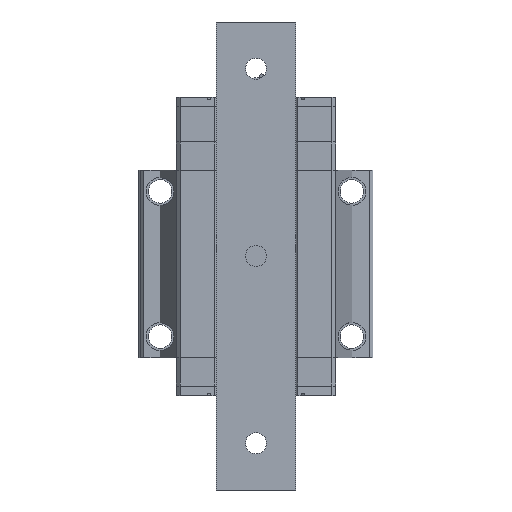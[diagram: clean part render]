
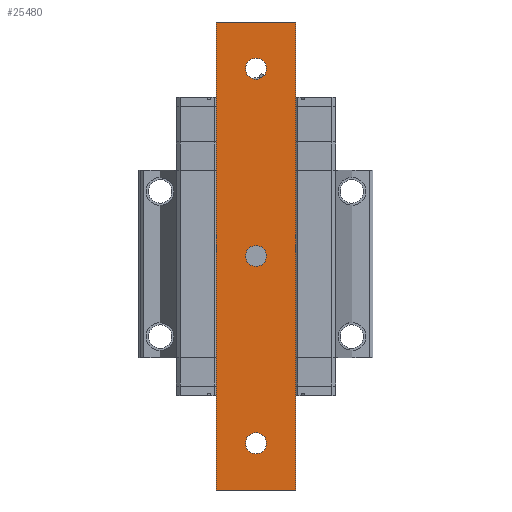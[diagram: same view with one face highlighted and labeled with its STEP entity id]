
A CAD part, front view. The second image highlights one B-rep face of the part: STEP entity #25480.
In plain terms, the highlighted planar face has unit normal (0, -1, 0).
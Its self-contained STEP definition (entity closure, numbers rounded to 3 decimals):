
#26 = VERTEX_POINT ( 'NONE', #2319 ) ;
#147 = DIRECTION ( 'NONE',  ( 0., 1., 0. ) ) ;
#363 = EDGE_LOOP ( 'NONE', ( #12113, #31694, #9282, #29969 ) ) ;
#595 = ORIENTED_EDGE ( 'NONE', *, *, #3492, .T. ) ;
#706 = EDGE_LOOP ( 'NONE', ( #595, #848 ) ) ;
#720 = EDGE_CURVE ( 'NONE', #25759, #10280, #30648, .T. ) ;
#848 = ORIENTED_EDGE ( 'NONE', *, *, #11807, .T. ) ;
#1095 = DIRECTION ( 'NONE',  ( 0., 0., 1. ) ) ;
#1551 = CARTESIAN_POINT ( 'NONE',  ( 0., -7.4, 80. ) ) ;
#1775 = DIRECTION ( 'NONE',  ( 0., 1., 0. ) ) ;
#2319 = CARTESIAN_POINT ( 'NONE',  ( 0., -7.4, 4.5 ) ) ;
#2815 = EDGE_CURVE ( 'NONE', #11930, #17918, #9507, .T. ) ;
#3130 = CARTESIAN_POINT ( 'NONE',  ( -17., -7.4, -100. ) ) ;
#3492 = EDGE_CURVE ( 'NONE', #25474, #14408, #18432, .T. ) ;
#3526 = CIRCLE ( 'NONE', #27011, 4.5 ) ;
#3545 = FACE_BOUND ( 'NONE', #706, .T. ) ;
#4035 = DIRECTION ( 'NONE',  ( 0., 0., 1. ) ) ;
#4064 = VECTOR ( 'NONE', #10052, 1000. ) ;
#4142 = DIRECTION ( 'NONE',  ( 0., 1., 0. ) ) ;
#4246 = CARTESIAN_POINT ( 'NONE',  ( -17., -7.4, -100. ) ) ;
#4560 = LINE ( 'NONE', #28664, #9899 ) ;
#4731 = FACE_BOUND ( 'NONE', #29448, .T. ) ;
#5036 = EDGE_CURVE ( 'NONE', #10280, #25759, #23872, .T. ) ;
#5421 = VERTEX_POINT ( 'NONE', #18916 ) ;
#5447 = ORIENTED_EDGE ( 'NONE', *, *, #21175, .T. ) ;
#6144 = CARTESIAN_POINT ( 'NONE',  ( 0., -7.4, -75.5 ) ) ;
#7030 = AXIS2_PLACEMENT_3D ( 'NONE', #23486, #20699, #1095 ) ;
#7844 = DIRECTION ( 'NONE',  ( 0., 0., 1. ) ) ;
#7974 = DIRECTION ( 'NONE',  ( 0., 1., 0. ) ) ;
#8272 = ORIENTED_EDGE ( 'NONE', *, *, #5036, .T. ) ;
#8799 = PLANE ( 'NONE',  #17621 ) ;
#9282 = ORIENTED_EDGE ( 'NONE', *, *, #2815, .F. ) ;
#9344 = EDGE_CURVE ( 'NONE', #11930, #5421, #28552, .T. ) ;
#9507 = LINE ( 'NONE', #4246, #21891 ) ;
#9899 = VECTOR ( 'NONE', #28999, 1000. ) ;
#10052 = DIRECTION ( 'NONE',  ( 1., 0., 0. ) ) ;
#10280 = VERTEX_POINT ( 'NONE', #6144 ) ;
#10423 = VERTEX_POINT ( 'NONE', #25198 ) ;
#10466 = DIRECTION ( 'NONE',  ( 0., 0., 1. ) ) ;
#11358 = LINE ( 'NONE', #25108, #4064 ) ;
#11692 = DIRECTION ( 'NONE',  ( 0., -1., 0. ) ) ;
#11807 = EDGE_CURVE ( 'NONE', #14408, #25474, #28159, .T. ) ;
#11930 = VERTEX_POINT ( 'NONE', #3130 ) ;
#12113 = ORIENTED_EDGE ( 'NONE', *, *, #28545, .T. ) ;
#13814 = CARTESIAN_POINT ( 'NONE',  ( 0., -7.4, -80. ) ) ;
#13899 = CARTESIAN_POINT ( 'NONE',  ( -17., -7.4, 100. ) ) ;
#14408 = VERTEX_POINT ( 'NONE', #21202 ) ;
#15797 = AXIS2_PLACEMENT_3D ( 'NONE', #1551, #4142, #4035 ) ;
#16145 = VECTOR ( 'NONE', #18317, 1000. ) ;
#16209 = DIRECTION ( 'NONE',  ( 0., 0., 1. ) ) ;
#16260 = CARTESIAN_POINT ( 'NONE',  ( 0., -7.4, 80. ) ) ;
#17621 = AXIS2_PLACEMENT_3D ( 'NONE', #29114, #11692, #31502 ) ;
#17918 = VERTEX_POINT ( 'NONE', #13899 ) ;
#18213 = CARTESIAN_POINT ( 'NONE',  ( 0., -7.4, -84.5 ) ) ;
#18317 = DIRECTION ( 'NONE',  ( 1., 0., 0. ) ) ;
#18432 = CIRCLE ( 'NONE', #18859, 4.5 ) ;
#18859 = AXIS2_PLACEMENT_3D ( 'NONE', #16260, #147, #7844 ) ;
#18916 = CARTESIAN_POINT ( 'NONE',  ( 17., -7.4, -100. ) ) ;
#20699 = DIRECTION ( 'NONE',  ( 0., 1., 0. ) ) ;
#20781 = EDGE_LOOP ( 'NONE', ( #5447, #24775 ) ) ;
#21175 = EDGE_CURVE ( 'NONE', #26, #26426, #3526, .T. ) ;
#21202 = CARTESIAN_POINT ( 'NONE',  ( 0., -7.4, 75.5 ) ) ;
#21873 = CARTESIAN_POINT ( 'NONE',  ( 0., -7.4, -4.5 ) ) ;
#21891 = VECTOR ( 'NONE', #24859, 1000. ) ;
#22413 = FACE_OUTER_BOUND ( 'NONE', #363, .T. ) ;
#22759 = CARTESIAN_POINT ( 'NONE',  ( 0., -7.4, -80. ) ) ;
#22959 = AXIS2_PLACEMENT_3D ( 'NONE', #13814, #31185, #16209 ) ;
#23486 = CARTESIAN_POINT ( 'NONE',  ( 0., -7.4, 0. ) ) ;
#23489 = CARTESIAN_POINT ( 'NONE',  ( 0., -7.4, 84.5 ) ) ;
#23872 = CIRCLE ( 'NONE', #29131, 4.5 ) ;
#24775 = ORIENTED_EDGE ( 'NONE', *, *, #25741, .T. ) ;
#24804 = FACE_BOUND ( 'NONE', #20781, .T. ) ;
#24859 = DIRECTION ( 'NONE',  ( 0., 0., 1. ) ) ;
#25108 = CARTESIAN_POINT ( 'NONE',  ( -17., -7.4, 100. ) ) ;
#25198 = CARTESIAN_POINT ( 'NONE',  ( 17., -7.4, 100. ) ) ;
#25209 = CIRCLE ( 'NONE', #7030, 4.5 ) ;
#25474 = VERTEX_POINT ( 'NONE', #23489 ) ;
#25480 = ADVANCED_FACE ( 'NONE', ( #4731, #24804, #3545, #22413 ), #8799, .T. ) ;
#25741 = EDGE_CURVE ( 'NONE', #26426, #26, #25209, .T. ) ;
#25759 = VERTEX_POINT ( 'NONE', #18213 ) ;
#25825 = CARTESIAN_POINT ( 'NONE',  ( -17., -7.4, -100. ) ) ;
#26426 = VERTEX_POINT ( 'NONE', #21873 ) ;
#27011 = AXIS2_PLACEMENT_3D ( 'NONE', #27531, #1775, #31551 ) ;
#27531 = CARTESIAN_POINT ( 'NONE',  ( 0., -7.4, 0. ) ) ;
#27736 = ORIENTED_EDGE ( 'NONE', *, *, #720, .T. ) ;
#28159 = CIRCLE ( 'NONE', #15797, 4.5 ) ;
#28545 = EDGE_CURVE ( 'NONE', #5421, #10423, #4560, .T. ) ;
#28552 = LINE ( 'NONE', #25825, #16145 ) ;
#28664 = CARTESIAN_POINT ( 'NONE',  ( 17., -7.4, -100. ) ) ;
#28999 = DIRECTION ( 'NONE',  ( 0., 0., 1. ) ) ;
#29114 = CARTESIAN_POINT ( 'NONE',  ( -17., -7.4, -100. ) ) ;
#29131 = AXIS2_PLACEMENT_3D ( 'NONE', #22759, #7974, #10466 ) ;
#29448 = EDGE_LOOP ( 'NONE', ( #8272, #27736 ) ) ;
#29969 = ORIENTED_EDGE ( 'NONE', *, *, #9344, .T. ) ;
#30648 = CIRCLE ( 'NONE', #22959, 4.5 ) ;
#31185 = DIRECTION ( 'NONE',  ( 0., 1., 0. ) ) ;
#31254 = EDGE_CURVE ( 'NONE', #17918, #10423, #11358, .T. ) ;
#31502 = DIRECTION ( 'NONE',  ( 0., 0., -1. ) ) ;
#31551 = DIRECTION ( 'NONE',  ( 0., 0., 1. ) ) ;
#31694 = ORIENTED_EDGE ( 'NONE', *, *, #31254, .F. ) ;
